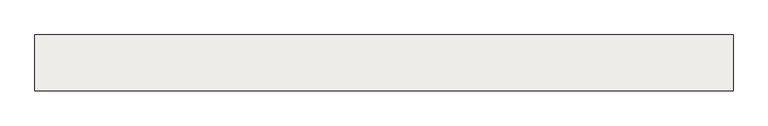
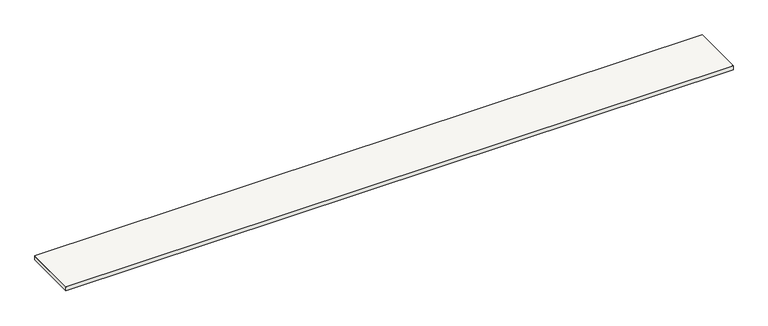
"""IFC4 building model written with IfcOpenShell, lengths in millimetres: slab geometry, Sol-02 - dalle béton 20cm + finition 1cm."""

from ifc_helpers import new_model, si_unit, frame, origin, origin_with_axes, place, context, project, spatial, polyline, outline, extrude, source, transform, mapped, element, save


def slab_3859afd0(model_context):
    return source(origin(), model_context, "Body", "SweptSolid", [
        extrude(outline(polyline([(79994.9999483, 0.0), (47614.9999799, 0.0), (47614.9999799, 2600.7753367), (79994.9999483, 2600.7753367), (79994.9999483, 0.0)])), frame((0.0, 0.0, 200.0), z_axis=(0.0, 0.0, 1.0), x_axis=(1.0, 0.0, 0.0)), (0.0, 0.0, 1.0), 10.0),
        extrude(outline(polyline([(47614.9999799, 0.0), (47614.9999799, 2600.7753367), (79994.9999483, 2600.7753367), (79994.9999483, 0.0), (47614.9999799, 0.0)])), origin_with_axes(), (0.0, 0.0, 1.0), 200.0),
    ])


if __name__ == "__main__":
    model = new_model("IFC4")
    model_context = context("Model", 3, world=origin())
    ifc_project = project(units=[si_unit("LENGTHUNIT", "METRE", prefix="MILLI")], contexts=[model_context])
    site = spatial("IfcSite", under=ifc_project)
    building = spatial("IfcBuilding", under=site)
    placement = place(None, origin())
    slab_shape = slab_3859afd0(model_context)
    element("IfcSlab", 1, ObjectType="Sol-02 - dalle béton 20cm + finition 1cm", at=placement, inside=building, context=model_context, shape_type="MappedRepresentation", body=[
        mapped(slab_shape, transform((0.0, 0.0, 0.0), x_axis=(1.0, 0.0, 0.0), y_axis=(0.0, 1.0, 0.0), z_axis=(0.0, 0.0, 1.0))),
    ])
    save(model, "model.ifc")
